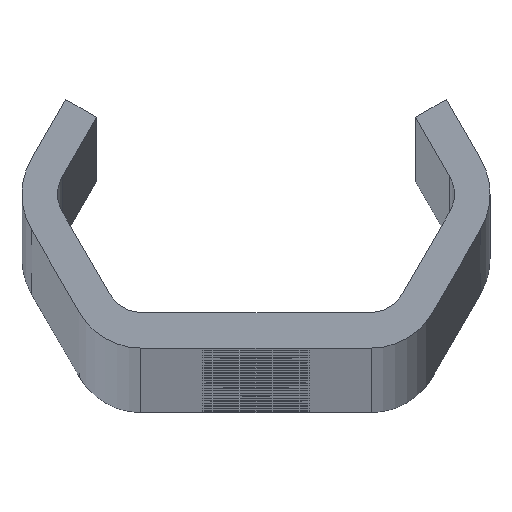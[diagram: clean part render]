
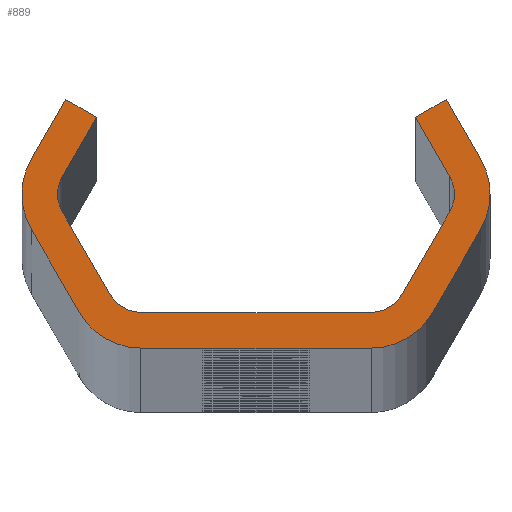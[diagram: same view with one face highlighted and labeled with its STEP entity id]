
A CAD part, top view. The second image highlights one B-rep face of the part: STEP entity #889.
In plain terms, the highlighted planar face has unit normal (0, 0, 1).
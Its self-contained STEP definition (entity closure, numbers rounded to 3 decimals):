
#889=ADVANCED_FACE('NONE',(#2488),#2489,.F.);
#2488=FACE_OUTER_BOUND('',#8146,.T.);
#2489=PLANE('',#8147);
#8146=EDGE_LOOP('',(#16531,#16532,#16533,#16534,#16535,#16536,#16537,#16538,#16539,#16540,#16541,#16542,#16543,#16544,#16545,#16546,#16547,#16548,#16549,#16550,#16551,#16552,#16553,#16554));
#8147=AXIS2_PLACEMENT_3D('',#16555,#16556,#16557);
#16531=ORIENTED_EDGE('',*,*,#22069,.T.);
#16532=ORIENTED_EDGE('',*,*,#22119,.T.);
#16533=ORIENTED_EDGE('',*,*,#21614,.T.);
#16534=ORIENTED_EDGE('',*,*,#22071,.T.);
#16535=ORIENTED_EDGE('',*,*,#22120,.T.);
#16536=ORIENTED_EDGE('',*,*,#22075,.T.);
#16537=ORIENTED_EDGE('',*,*,#22121,.T.);
#16538=ORIENTED_EDGE('',*,*,#21621,.T.);
#16539=ORIENTED_EDGE('',*,*,#22122,.T.);
#16540=ORIENTED_EDGE('',*,*,#21212,.T.);
#16541=ORIENTED_EDGE('',*,*,#21624,.T.);
#16542=ORIENTED_EDGE('',*,*,#21630,.T.);
#16543=ORIENTED_EDGE('',*,*,#21633,.T.);
#16544=ORIENTED_EDGE('',*,*,#21611,.T.);
#16545=ORIENTED_EDGE('',*,*,#22123,.T.);
#16546=ORIENTED_EDGE('',*,*,#21635,.T.);
#16547=ORIENTED_EDGE('',*,*,#22124,.T.);
#16548=ORIENTED_EDGE('',*,*,#21642,.T.);
#16549=ORIENTED_EDGE('',*,*,#22125,.T.);
#16550=ORIENTED_EDGE('',*,*,#22056,.T.);
#16551=ORIENTED_EDGE('',*,*,#22126,.T.);
#16552=ORIENTED_EDGE('',*,*,#21207,.T.);
#16553=ORIENTED_EDGE('',*,*,#22059,.T.);
#16554=ORIENTED_EDGE('',*,*,#22065,.T.);
#16555=CARTESIAN_POINT('',(0.0,0.0,3120.0));
#16556=DIRECTION('',(0.0,0.0,-1.0));
#16557=DIRECTION('',(0.0,-1.0,0.0));
#21207=EDGE_CURVE('NONE',#23626,#23630,#23632,.T.);
#21212=EDGE_CURVE('NONE',#23635,#23639,#23641,.T.);
#21611=EDGE_CURVE('NONE',#24359,#24357,#24360,.T.);
#21614=EDGE_CURVE('NONE',#24363,#24364,#24365,.T.);
#21621=EDGE_CURVE('NONE',#24377,#24375,#24378,.T.);
#21624=EDGE_CURVE('NONE',#23639,#24381,#24382,.T.);
#21630=EDGE_CURVE('NONE',#24381,#24389,#24391,.T.);
#21633=EDGE_CURVE('NONE',#24389,#24359,#24394,.T.);
#21635=EDGE_CURVE('NONE',#24396,#24397,#24398,.T.);
#21642=EDGE_CURVE('NONE',#24410,#24408,#24411,.T.);
#22056=EDGE_CURVE('NONE',#25178,#25176,#25179,.T.);
#22059=EDGE_CURVE('NONE',#23630,#25182,#25183,.T.);
#22065=EDGE_CURVE('NONE',#25182,#25190,#25192,.T.);
#22069=EDGE_CURVE('NONE',#25190,#25196,#25198,.T.);
#22071=EDGE_CURVE('NONE',#24364,#25200,#25201,.T.);
#22075=EDGE_CURVE('NONE',#25206,#25207,#25208,.T.);
#22119=EDGE_CURVE('NONE',#25196,#24363,#25254,.T.);
#22120=EDGE_CURVE('NONE',#25200,#25206,#25255,.T.);
#22121=EDGE_CURVE('NONE',#25207,#24377,#25256,.T.);
#22122=EDGE_CURVE('NONE',#24375,#23635,#25257,.T.);
#22123=EDGE_CURVE('NONE',#24357,#24396,#25258,.T.);
#22124=EDGE_CURVE('NONE',#24397,#24410,#25259,.T.);
#22125=EDGE_CURVE('NONE',#24408,#25178,#25260,.T.);
#22126=EDGE_CURVE('NONE',#25176,#23626,#25261,.T.);
#23626=VERTEX_POINT('',#27211);
#23630=VERTEX_POINT('NONE',#27216);
#23632=CIRCLE('',#27219,3.0);
#23635=VERTEX_POINT('',#27222);
#23639=VERTEX_POINT('NONE',#27227);
#23641=CIRCLE('',#27230,6.0);
#24357=VERTEX_POINT('NONE',#31524);
#24359=VERTEX_POINT('NONE',#31527);
#24360=CIRCLE('',#31528,3.0);
#24363=VERTEX_POINT('NONE',#31532);
#24364=VERTEX_POINT('NONE',#31533);
#24365=CIRCLE('',#31534,6.0);
#24375=VERTEX_POINT('NONE',#31547);
#24377=VERTEX_POINT('NONE',#31550);
#24378=LINE('',#31551,#31552);
#24381=VERTEX_POINT('NONE',#31556);
#24382=LINE('',#31557,#31558);
#24389=VERTEX_POINT('NONE',#31568);
#24391=LINE('',#31571,#31572);
#24394=LINE('',#31576,#31577);
#24396=VERTEX_POINT('NONE',#31579);
#24397=VERTEX_POINT('NONE',#31580);
#24398=LINE('',#31581,#31582);
#24408=VERTEX_POINT('NONE',#31596);
#24410=VERTEX_POINT('NONE',#31599);
#24411=LINE('',#31600,#31601);
#25176=VERTEX_POINT('NONE',#34368);
#25178=VERTEX_POINT('NONE',#34371);
#25179=LINE('',#34372,#34373);
#25182=VERTEX_POINT('NONE',#34377);
#25183=LINE('',#34378,#34379);
#25190=VERTEX_POINT('NONE',#34389);
#25192=LINE('',#34392,#34393);
#25196=VERTEX_POINT('NONE',#34398);
#25198=LINE('',#34401,#34402);
#25200=VERTEX_POINT('NONE',#34404);
#25201=LINE('',#34405,#34406);
#25206=VERTEX_POINT('NONE',#34413);
#25207=VERTEX_POINT('NONE',#34414);
#25208=LINE('',#34415,#34416);
#25254=CIRCLE('',#34465,6.0);
#25255=CIRCLE('',#34466,6.0);
#25256=CIRCLE('',#34467,6.0);
#25257=CIRCLE('',#34468,6.0);
#25258=CIRCLE('',#34469,3.0);
#25259=CIRCLE('',#34470,3.0);
#25260=CIRCLE('',#34471,3.0);
#25261=CIRCLE('',#34472,3.0);
#27211=CARTESIAN_POINT('',(-16.764,0.,3120.0));
#27216=CARTESIAN_POINT('',(-16.362,1.5,3120.0));
#27219=AXIS2_PLACEMENT_3D('',#40925,#40926,#40927);
#27222=CARTESIAN_POINT('',(19.764,0.,3120.0));
#27227=CARTESIAN_POINT('',(18.96,3.,3120.0));
#27230=AXIS2_PLACEMENT_3D('',#40933,#40934,#40935);
#31524=CARTESIAN_POINT('',(16.764,0.,3120.0));
#31527=CARTESIAN_POINT('',(16.362,1.5,3120.0));
#31528=AXIS2_PLACEMENT_3D('',#41332,#41333,#41334);
#31532=CARTESIAN_POINT('',(-19.764,0.,3120.0));
#31533=CARTESIAN_POINT('',(-18.96,-3.,3120.0));
#31534=AXIS2_PLACEMENT_3D('',#41336,#41337,#41338);
#31547=CARTESIAN_POINT('',(18.96,-3.,3120.0));
#31550=CARTESIAN_POINT('',(14.919,-10.,3120.0));
#31551=CARTESIAN_POINT('',(20.692,0.,3120.0));
#31552=VECTOR('',#41346,1000.0);
#31556=CARTESIAN_POINT('',(16.074,8.,3120.0));
#31557=CARTESIAN_POINT('',(16.074,8.,3120.0));
#31558=VECTOR('',#41348,1000.0);
#31568=CARTESIAN_POINT('',(13.475,6.5,3120.0));
#31571=CARTESIAN_POINT('',(13.475,6.5,3120.0));
#31572=VECTOR('',#41353,1000.0);
#31576=CARTESIAN_POINT('',(17.228,0.,3120.0));
#31577=VECTOR('',#41355,1000.0);
#31579=CARTESIAN_POINT('',(16.362,-1.5,3120.0));
#31580=CARTESIAN_POINT('',(12.321,-8.5,3120.0));
#31581=CARTESIAN_POINT('',(11.455,-10.0,3120.0));
#31582=VECTOR('',#41356,1000.0);
#31596=CARTESIAN_POINT('',(-9.723,-10.0,3120.0));
#31599=CARTESIAN_POINT('',(9.723,-10.0,3120.0));
#31600=CARTESIAN_POINT('',(-11.455,-10.0,3120.0));
#31601=VECTOR('',#41362,1000.0);
#34368=CARTESIAN_POINT('',(-16.362,-1.5,3120.0));
#34371=CARTESIAN_POINT('',(-12.321,-8.5,3120.0));
#34372=CARTESIAN_POINT('',(-17.228,0.,3120.0));
#34373=VECTOR('',#41813,1000.0);
#34377=CARTESIAN_POINT('',(-13.475,6.5,3120.0));
#34378=CARTESIAN_POINT('',(-13.475,6.5,3120.0));
#34379=VECTOR('',#41815,1000.0);
#34389=CARTESIAN_POINT('',(-16.074,8.,3120.0));
#34392=CARTESIAN_POINT('',(-13.475,6.5,3120.0));
#34393=VECTOR('',#41820,1000.0);
#34398=CARTESIAN_POINT('',(-18.96,3.,3120.0));
#34401=CARTESIAN_POINT('',(-16.074,8.,3120.0));
#34402=VECTOR('',#41823,1000.0);
#34404=CARTESIAN_POINT('',(-14.919,-10.,3120.0));
#34405=CARTESIAN_POINT('',(-20.692,0.,3120.0));
#34406=VECTOR('',#41824,1000.0);
#34413=CARTESIAN_POINT('',(-9.723,-13.0,3120.0));
#34414=CARTESIAN_POINT('',(9.723,-13.0,3120.0));
#34415=CARTESIAN_POINT('',(-13.187,-13.0,3120.0));
#34416=VECTOR('',#41827,1000.0);
#34465=AXIS2_PLACEMENT_3D('',#41948,#41949,#41950);
#34466=AXIS2_PLACEMENT_3D('',#41951,#41952,#41953);
#34467=AXIS2_PLACEMENT_3D('',#41954,#41955,#41956);
#34468=AXIS2_PLACEMENT_3D('',#41957,#41958,#41959);
#34469=AXIS2_PLACEMENT_3D('',#41960,#41961,#41962);
#34470=AXIS2_PLACEMENT_3D('',#41963,#41964,#41965);
#34471=AXIS2_PLACEMENT_3D('',#41966,#41967,#41968);
#34472=AXIS2_PLACEMENT_3D('',#41969,#41970,#41971);
#40925=CARTESIAN_POINT('',(-13.764,0.,3120.0));
#40926=DIRECTION('',(0.0,0.0,-1.0));
#40927=DIRECTION('',(-1.0,0.0,0.0));
#40933=CARTESIAN_POINT('',(13.764,0.,3120.0));
#40934=DIRECTION('',(0.0,0.0,1.0));
#40935=DIRECTION('',(-1.0,0.0,0.0));
#41332=CARTESIAN_POINT('',(13.764,0.,3120.0));
#41333=DIRECTION('',(0.0,0.0,-1.0));
#41334=DIRECTION('',(-1.0,0.0,0.0));
#41336=CARTESIAN_POINT('',(-13.764,0.,3120.0));
#41337=DIRECTION('',(0.0,0.0,1.0));
#41338=DIRECTION('',(-1.0,0.0,0.0));
#41346=DIRECTION('',(0.5,0.866,-0.0));
#41348=DIRECTION('',(-0.5,0.866,-0.0));
#41353=DIRECTION('',(-0.866,-0.5,-0.0));
#41355=DIRECTION('',(0.5,-0.866,-0.0));
#41356=DIRECTION('',(-0.5,-0.866,-0.0));
#41362=DIRECTION('',(-1.0,0.,-0.0));
#41813=DIRECTION('',(-0.5,0.866,-0.0));
#41815=DIRECTION('',(0.5,0.866,-0.0));
#41820=DIRECTION('',(-0.866,0.5,0.0));
#41823=DIRECTION('',(-0.5,-0.866,0.0));
#41824=DIRECTION('',(0.5,-0.866,0.0));
#41827=DIRECTION('',(1.0,0.0,0.0));
#41948=CARTESIAN_POINT('',(-13.764,0.,3120.0));
#41949=DIRECTION('',(0.0,0.0,1.0));
#41950=DIRECTION('',(-1.0,0.,0.0));
#41951=CARTESIAN_POINT('',(-9.723,-7.0,3120.0));
#41952=DIRECTION('',(0.0,0.0,1.0));
#41953=DIRECTION('',(-1.0,0.0,0.0));
#41954=CARTESIAN_POINT('',(9.723,-7.0,3120.0));
#41955=DIRECTION('',(0.0,0.0,1.0));
#41956=DIRECTION('',(-1.0,0.,0.0));
#41957=CARTESIAN_POINT('',(13.764,0.,3120.0));
#41958=DIRECTION('',(0.0,0.0,1.0));
#41959=DIRECTION('',(-1.0,0.0,0.0));
#41960=CARTESIAN_POINT('',(13.764,0.,3120.0));
#41961=DIRECTION('',(0.0,0.0,-1.0));
#41962=DIRECTION('',(-1.0,0.0,0.0));
#41963=CARTESIAN_POINT('',(9.723,-7.0,3120.0));
#41964=DIRECTION('',(0.0,0.0,-1.0));
#41965=DIRECTION('',(-1.0,0.0,0.0));
#41966=CARTESIAN_POINT('',(-9.723,-7.0,3120.0));
#41967=DIRECTION('',(0.0,0.0,-1.0));
#41968=DIRECTION('',(-1.0,0.0,0.0));
#41969=CARTESIAN_POINT('',(-13.764,0.,3120.0));
#41970=DIRECTION('',(0.0,0.0,-1.0));
#41971=DIRECTION('',(-1.0,0.0,0.0));
